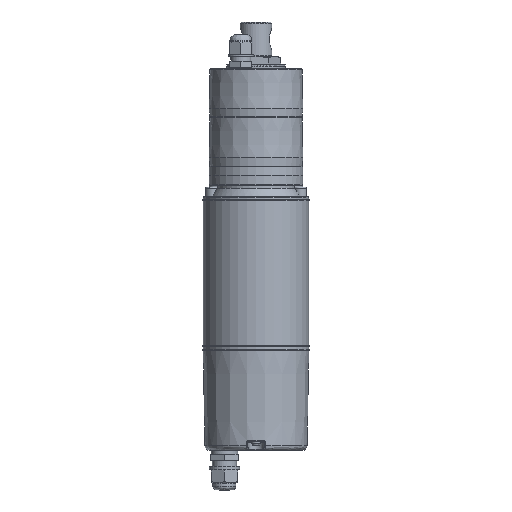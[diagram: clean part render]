
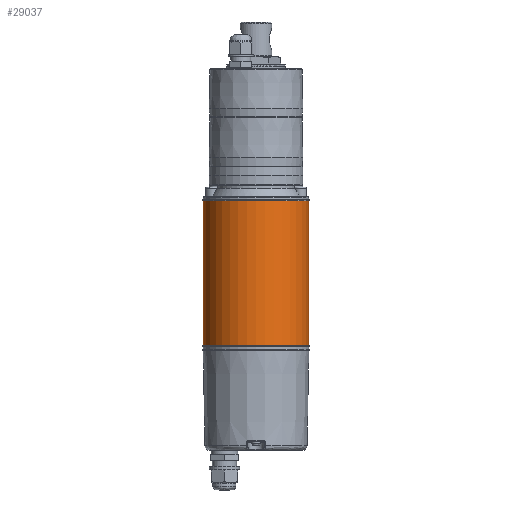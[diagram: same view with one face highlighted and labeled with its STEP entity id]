
A CAD part, front view. The second image highlights one B-rep face of the part: STEP entity #29037.
In plain terms, the highlighted cylindrical face has radius 43.5 mm (diameter 87 mm), a full revolution.
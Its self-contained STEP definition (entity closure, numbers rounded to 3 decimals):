
#1376 = EDGE_CURVE ( 'NONE', #4297, #4297, #7828, .T. ) ;
#4297 = VERTEX_POINT ( 'NONE', #19015 ) ;
#4851 = FACE_OUTER_BOUND ( 'NONE', #6959, .T. ) ;
#6959 = EDGE_LOOP ( 'NONE', ( #21249 ) ) ;
#7802 = CIRCLE ( 'NONE', #23056, 43.5 ) ;
#7828 = CIRCLE ( 'NONE', #13766, 43.5 ) ;
#8290 = DIRECTION ( 'NONE',  ( 0., 0., 1. ) ) ;
#13766 = AXIS2_PLACEMENT_3D ( 'NONE', #23269, #23213, #23174 ) ;
#14195 = CARTESIAN_POINT ( 'NONE',  ( 0., -74.5, -188.3 ) ) ;
#14348 = CARTESIAN_POINT ( 'NONE',  ( 0., -74.5, -58.5 ) ) ;
#17231 = DIRECTION ( 'NONE',  ( 1., 0., 0. ) ) ;
#19015 = CARTESIAN_POINT ( 'NONE',  ( 43.5, -74.5, -68.8 ) ) ;
#19898 = FACE_OUTER_BOUND ( 'NONE', #21532, .T. ) ;
#21249 = ORIENTED_EDGE ( 'NONE', *, *, #1376, .T. ) ;
#21532 = EDGE_LOOP ( 'NONE', ( #22917 ) ) ;
#22917 = ORIENTED_EDGE ( 'NONE', *, *, #26254, .T. ) ;
#23056 = AXIS2_PLACEMENT_3D ( 'NONE', #14195, #35143, #17231 ) ;
#23174 = DIRECTION ( 'NONE',  ( 1., 0., 0. ) ) ;
#23213 = DIRECTION ( 'NONE',  ( 0., 0., -1. ) ) ;
#23269 = CARTESIAN_POINT ( 'NONE',  ( 0., -74.5, -68.8 ) ) ;
#25890 = VERTEX_POINT ( 'NONE', #37350 ) ;
#26254 = EDGE_CURVE ( 'NONE', #25890, #25890, #7802, .T. ) ;
#29037 = ADVANCED_FACE ( 'NONE', ( #19898, #4851 ), #34858, .T. ) ;
#30412 = AXIS2_PLACEMENT_3D ( 'NONE', #14348, #8290, #32317 ) ;
#32317 = DIRECTION ( 'NONE',  ( 1., 0., 0. ) ) ;
#34858 = CYLINDRICAL_SURFACE ( 'NONE', #30412, 43.5 ) ;
#35143 = DIRECTION ( 'NONE',  ( 0., 0., 1. ) ) ;
#37350 = CARTESIAN_POINT ( 'NONE',  ( 43.5, -74.5, -188.3 ) ) ;
